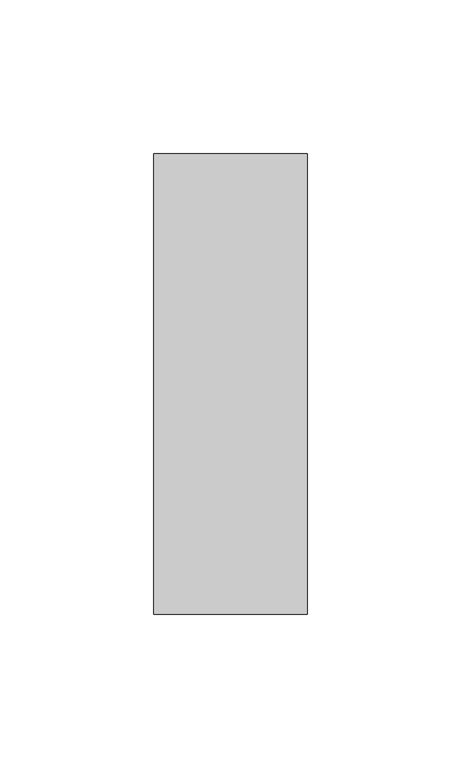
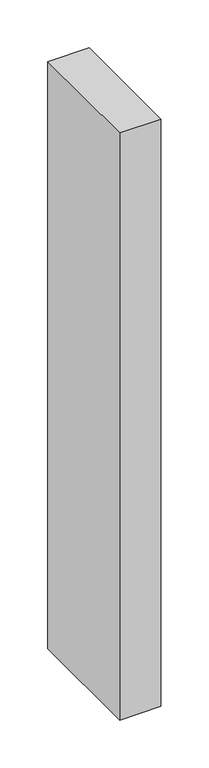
"""IFC4 building model written with IfcOpenShell, lengths in millimetres: member geometry, 矩形竖梃 : 教学楼 – 矩形竖梃 – 50x150mm."""

import ifcopenshell
import ifcopenshell.guid

model = None  # the IFC model being written
_history = None  # IfcOwnerHistory: only IFC2X3 demands one
_inside = {}  # id of a spatial element -> (the spatial element, [elements in it])
_under = {}  # id of a project, library or spatial element -> (it, [spatial elements below it])
_declared = {}  # id of a project -> (the project, [libraries it declares])
_typed = {}  # id of a type object -> (the type object, [elements of that type])
_made_of = {}  # id of a material, layer set ... -> (it, [elements and type objects made of it])


def new_model(schema):
    """Start an empty IFC model of exactly this schema.

    Asked for "IFC4X3", IfcOpenShell would pick the latest addendum, in which some entities
    have other attributes; the version numbers below select the first issue.
    IFC2X3 requires an IfcOwnerHistory on every rooted entity: one is made here for all.
    """
    global model, _history
    if schema == "IFC4X3":
        model = ifcopenshell.file(schema_version=(4, 3, 0, 0))
    else:
        model = ifcopenshell.file(schema=schema)
    _inside.clear()
    _under.clear()
    _declared.clear()
    _typed.clear()
    _made_of.clear()
    _history = None
    if model.schema == "IFC2X3":
        org = make("IfcOrganization", Name="unknown")
        user = make(
            "IfcPersonAndOrganization",
            ThePerson=make("IfcPerson", FamilyName="unknown"),
            TheOrganization=org,
        )
        app = make(
            "IfcApplication",
            ApplicationDeveloper=org,
            Version="unknown",
            ApplicationFullName="unknown",
            ApplicationIdentifier="unknown",
        )
        _history = make(
            "IfcOwnerHistory",
            OwningUser=user,
            OwningApplication=app,
            ChangeAction="ADDED",
            CreationDate=0,
        )
    return model


def make(cls, **values):
    """One entity of the class cls with the attributes given. An attribute that is None is left unset."""
    return model.create_entity(
        cls, **{name: value for name, value in values.items() if value is not None}
    )


def rooted(cls, **values):
    """An entity with a GlobalId (a new one), such as an element, a storey or a relation."""
    return make(cls, GlobalId=ifcopenshell.guid.new(), OwnerHistory=_history, **values)


def si_unit(unit_type, name, prefix=None):
    """IfcSIUnit, for example si_unit("LENGTHUNIT", "METRE", prefix="MILLI")."""
    return make("IfcSIUnit", UnitType=unit_type, Prefix=prefix, Name=name)


def assignment(units):
    """IfcUnitAssignment: the units of a project."""
    return None if units is None else make("IfcUnitAssignment", Units=units)


def point(xyz):
    """IfcCartesianPoint."""
    return None if xyz is None else make("IfcCartesianPoint", Coordinates=xyz)


def direction(xyz):
    """IfcDirection."""
    return None if xyz is None else make("IfcDirection", DirectionRatios=xyz)


def frame(location, z_axis=None, x_axis=None):
    """IfcAxis2Placement3D, a coordinate frame: its origin and axes. An axis left out is left unset."""
    return make(
        "IfcAxis2Placement3D",
        Location=point(location),
        Axis=direction(z_axis),
        RefDirection=direction(x_axis),
    )


def origin():
    """The frame at (0, 0, 0) with its axes left unset."""
    return frame((0.0, 0.0, 0.0))


def place(relative_to, where):
    """IfcLocalPlacement: puts the frame where relative to a parent placement (None: the world)."""
    return make(
        "IfcLocalPlacement", PlacementRelTo=relative_to, RelativePlacement=where
    )


def context(
    kind, dimensions, precision=None, world=None, true_north=None, identifier=None
):
    """IfcGeometricRepresentationContext, for example the 3D "Model" context."""
    return make(
        "IfcGeometricRepresentationContext",
        ContextIdentifier=identifier,
        ContextType=kind,
        CoordinateSpaceDimension=dimensions,
        Precision=precision,
        WorldCoordinateSystem=world,
        TrueNorth=true_north,
    )


def project(units=None, contexts=None):
    """IfcProject with its units and contexts."""
    return rooted(
        "IfcProject",
        Name="project",
        RepresentationContexts=contexts,
        UnitsInContext=assignment(units),
    )


def spatial(cls, under=None, at=None, **own):
    """A site, building, storey or space (cls), placed at a placement, below another one or the project."""
    s = rooted(cls, ObjectPlacement=at, **own)
    if under is not None:
        _under.setdefault(under.id(), (under, []))[1].append(s)
    return s


def polyline(points):
    """IfcPolyline through the points."""
    return make("IfcPolyline", Points=[point(p) for p in points])


def outline(outer, holes=None, kind="AREA"):
    """IfcArbitraryClosedProfileDef: a profile drawn as a closed curve; with holes, ...WithVoids."""
    if holes is None:
        return make("IfcArbitraryClosedProfileDef", ProfileType=kind, OuterCurve=outer)
    return make(
        "IfcArbitraryProfileDefWithVoids",
        ProfileType=kind,
        OuterCurve=outer,
        InnerCurves=holes,
    )


def extrude(swept, where, along, depth):
    """IfcExtrudedAreaSolid: the profile swept, set in the frame where, extruded along a direction by depth."""
    return make(
        "IfcExtrudedAreaSolid",
        SweptArea=swept,
        Position=where,
        ExtrudedDirection=direction(along),
        Depth=depth,
    )


def shape(context_of_items, identifier, shape_type, items):
    """IfcShapeRepresentation: the items that make up one representation, for example the "Body"."""
    return make(
        "IfcShapeRepresentation",
        ContextOfItems=context_of_items,
        RepresentationIdentifier=identifier,
        RepresentationType=shape_type,
        Items=items,
    )


def source(mapping_origin, context_of_items, identifier, shape_type, items):
    """IfcRepresentationMap: a shape defined once, which mapped items show again and again."""
    return make(
        "IfcRepresentationMap",
        MappingOrigin=mapping_origin,
        MappedRepresentation=shape(context_of_items, identifier, shape_type, items),
    )


def transform(
    local_origin,
    x_axis=None,
    y_axis=None,
    z_axis=None,
    scale=None,
    scale2=None,
    scale3=None,
    uniform=True,
):
    """IfcCartesianTransformationOperator3D, or its non-uniform kind. x_axis, y_axis, z_axis: its Axis1, 2, 3."""
    if uniform:
        return make(
            "IfcCartesianTransformationOperator3D",
            Axis1=direction(x_axis),
            Axis2=direction(y_axis),
            LocalOrigin=point(local_origin),
            Scale=scale,
            Axis3=direction(z_axis),
        )
    return make(
        "IfcCartesianTransformationOperator3DnonUniform",
        Axis1=direction(x_axis),
        Axis2=direction(y_axis),
        LocalOrigin=point(local_origin),
        Scale=scale,
        Axis3=direction(z_axis),
        Scale2=scale2,
        Scale3=scale3,
    )


def mapped(mapping_source, mapping_target):
    """IfcMappedItem: shows the shape of a source again, moved by a transform."""
    return make(
        "IfcMappedItem", MappingSource=mapping_source, MappingTarget=mapping_target
    )


def made_of(thing, what):
    """Note that an element or type object is made of a material, layer set ...; save() writes the relation."""
    if what is not None:
        _made_of.setdefault(what.id(), (what, []))[1].append(thing)
    return thing


def element(
    cls,
    number,
    at=None,
    inside=None,
    cuts=None,
    type_object=None,
    material=None,
    context=None,
    identifier="Body",
    shape_type=None,
    held_by="IfcProductDefinitionShape",
    body=None,
    shapes=None,
    **own,
):
    """One element of the class cls, such as IfcWall. Its Tag is "e" and its number.

    at: its placement. inside: the storey or other place that contains it. cuts: it is an
    opening in that element (IfcRelVoidsElement). A single representation is given by context,
    identifier, shape_type and body (its items); several are given by shapes. held_by: the class
    of the entity that holds the representations. save() writes the other relations.
    """
    e = rooted(cls, Tag="e%d" % number, ObjectPlacement=at, **own)
    if body is not None:
        shapes = [shape(context, identifier, shape_type, body)]
    if shapes is not None:
        e.Representation = make(held_by, Representations=shapes)
    if inside is not None:
        _inside.setdefault(inside.id(), (inside, []))[1].append(e)
    if cuts is not None:
        rooted(
            "IfcRelVoidsElement", RelatingBuildingElement=cuts, RelatedOpeningElement=e
        )
    if type_object is not None:
        _typed.setdefault(type_object.id(), (type_object, []))[1].append(e)
    return made_of(e, material)


def aggregate(whole, parts):
    """IfcRelAggregates: a whole, such as a stair, and the parts it consists of."""
    return rooted("IfcRelAggregates", RelatingObject=whole, RelatedObjects=parts)


def save(model, path):
    """Write the relations noted so far, then the file.

    IfcRelAggregates (storeys below a building ...), IfcRelContainedInSpatialStructure (elements
    in a storey), IfcRelDefinesByType, IfcRelAssociatesMaterial and IfcRelDeclares: one each for
    every whole, place, type object, material and project.
    """
    for whole, parts in _under.values():
        aggregate(whole, parts)
    for where, things in _inside.values():
        rooted(
            "IfcRelContainedInSpatialStructure",
            RelatedElements=things,
            RelatingStructure=where,
        )
    for kind, things in _typed.values():
        rooted("IfcRelDefinesByType", RelatedObjects=things, RelatingType=kind)
    for what, things in _made_of.values():
        rooted("IfcRelAssociatesMaterial", RelatedObjects=things, RelatingMaterial=what)
    for by, libraries in _declared.values():
        rooted("IfcRelDeclares", RelatingContext=by, RelatedDefinitions=libraries)
    model.write(path)


def member_f9d68b3c(model_context):
    return source(origin(), model_context, "Body", "SweptSolid", [
        extrude(outline(polyline([(25.0, 75.0), (25.0, -75.0), (-25.0, -75.0), (-25.0, 75.0), (25.0, 75.0)])), frame((0.0, 0.0, -750.0000003), z_axis=(0.0, 0.0, 1.0), x_axis=(1.0, 0.0, 0.0)), (0.0, 0.0, 1.0), 750.0000003),
    ])


if __name__ == "__main__":
    model = new_model("IFC4")
    model_context = context("Model", 3, world=origin())
    ifc_project = project(units=[si_unit("LENGTHUNIT", "METRE", prefix="MILLI")], contexts=[model_context])
    site = spatial("IfcSite", under=ifc_project)
    building = spatial("IfcBuilding", under=site)
    placement = place(None, origin())
    member_shape = member_f9d68b3c(model_context)
    element("IfcMember", 1, ObjectType="矩形竖梃 : 教学楼 – 矩形竖梃 – 50x150mm", at=placement, inside=building, context=model_context, shape_type="MappedRepresentation", body=[
        mapped(member_shape, transform((0.0, 0.0, 0.0), x_axis=(1.0, 0.0, 0.0), y_axis=(0.0, 1.0, 0.0), z_axis=(0.0, 0.0, 1.0))),
    ])
    save(model, "model.ifc")
